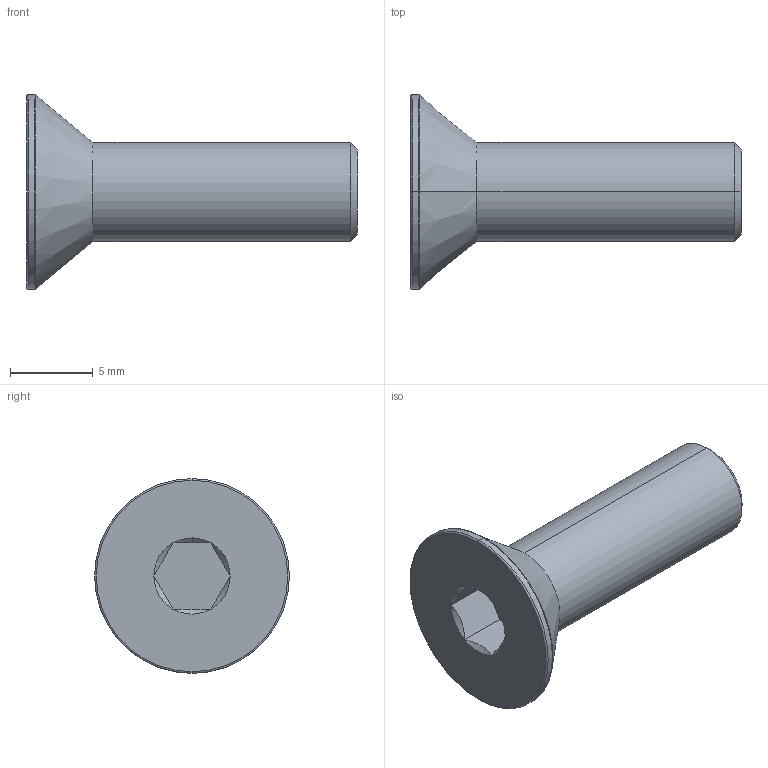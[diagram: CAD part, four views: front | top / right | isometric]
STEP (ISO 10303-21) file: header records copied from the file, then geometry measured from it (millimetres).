
FILE_DESCRIPTION (( 'STEP AP203' ), '1' );
FILE_NAME ('LGDB-TDE-M6x20.STEP', '2026-08-10T13:10:55', ( '' ), ( '' ), 'SwSTEP 2.0', 'SolidWorks 2020', '' );
FILE_SCHEMA (( 'CONFIG_CONTROL_DESIGN' ));
Length unit declared in the file: millimetre
Products named in the file (1): LGDB-TDE-M6x20
Bounding box: 20 x 11.8 x 11.8 mm (x, y, z)
Volume: 689.1 mm3; surface area: 618.6 mm2
Topology: 1 solids, 1 shells, 28 faces, 53 edges, 28 vertices
Faces by surface type: cone 11, plane 9, torus 4, cylinder 4
Entity records: 796 total; most frequent: CARTESIAN_POINT 157, DIRECTION 129, ORIENTED_EDGE 106, AXIS2_PLACEMENT_3D 54, EDGE_CURVE 53, EDGE_LOOP 29, VERTEX_POINT 28, FACE_OUTER_BOUND 28
